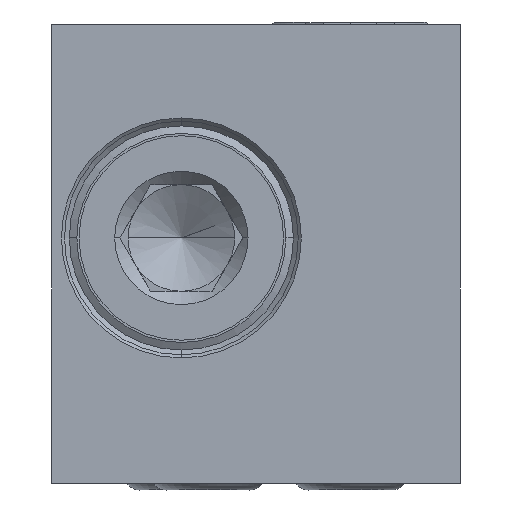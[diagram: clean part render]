
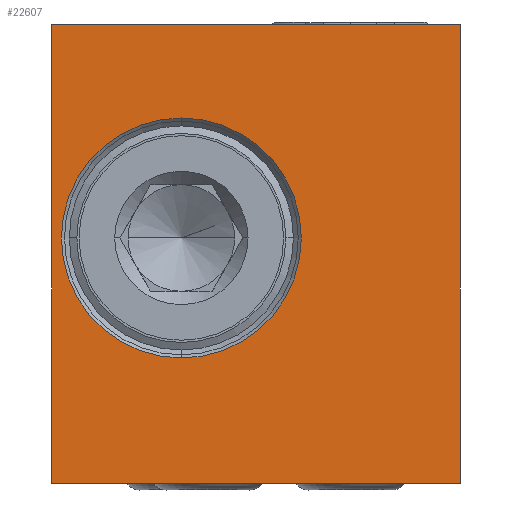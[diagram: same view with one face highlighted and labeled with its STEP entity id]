
A CAD part, left-side view. The second image highlights one B-rep face of the part: STEP entity #22607.
In plain terms, the highlighted planar face has unit normal (-1, 0, 0).
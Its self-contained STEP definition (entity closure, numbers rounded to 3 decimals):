
#4189=DIRECTION('',(0.,0.,1.));
#4190=VECTOR('',#4189,25.8);
#4191=CARTESIAN_POINT('',(-38.,11.5,-12.9));
#4192=LINE('',#4191,#4190);
#4193=DIRECTION('',(0.,-1.,0.));
#4194=VECTOR('',#4193,23.);
#4195=CARTESIAN_POINT('',(-38.,11.5,12.9));
#4196=LINE('',#4195,#4194);
#4197=DIRECTION('',(0.,0.,-1.));
#4198=VECTOR('',#4197,25.8);
#4199=CARTESIAN_POINT('',(-38.,-11.5,12.9));
#4200=LINE('',#4199,#4198);
#4201=DIRECTION('',(0.,1.,0.));
#4202=VECTOR('',#4201,23.);
#4203=CARTESIAN_POINT('',(-38.,-11.5,-12.9));
#4204=LINE('',#4203,#4202);
#4205=CARTESIAN_POINT('',(-38.,4.2,0.9));
#4206=DIRECTION('',(-1.,0.,0.));
#4207=DIRECTION('',(0.,0.,-1.));
#4208=AXIS2_PLACEMENT_3D('',#4205,#4206,#4207);
#4210=CARTESIAN_POINT('',(-38.,4.2,0.9));
#4211=DIRECTION('',(-1.,0.,0.));
#4212=DIRECTION('',(0.,0.,1.));
#4213=AXIS2_PLACEMENT_3D('',#4210,#4211,#4212);
#15475=CARTESIAN_POINT('',(-38.,11.5,12.9));
#15476=VERTEX_POINT('',#15475);
#15477=CARTESIAN_POINT('',(-38.,11.5,-12.9));
#15478=VERTEX_POINT('',#15477);
#15479=CARTESIAN_POINT('',(-38.,-11.5,12.9));
#15480=VERTEX_POINT('',#15479);
#15501=CARTESIAN_POINT('',(-38.,-11.5,-12.9));
#15502=VERTEX_POINT('',#15501);
#15547=CARTESIAN_POINT('',(-38.,4.2,-5.85));
#15548=CARTESIAN_POINT('',(-38.,4.2,7.65));
#15549=VERTEX_POINT('',#15547);
#15550=VERTEX_POINT('',#15548);
#22588=CARTESIAN_POINT('',(-38.,0.,0.));
#22589=DIRECTION('',(-1.,0.,0.));
#22590=DIRECTION('',(0.,-1.,0.));
#22591=AXIS2_PLACEMENT_3D('',#22588,#22589,#22590);
#22592=PLANE('',#22591);
#22593=ORIENTED_EDGE('',*,*,#22581,.T.);
#22594=ORIENTED_EDGE('',*,*,#20289,.T.);
#22596=ORIENTED_EDGE('',*,*,#22595,.T.);
#22598=ORIENTED_EDGE('',*,*,#22597,.T.);
#22599=EDGE_LOOP('',(#22593,#22594,#22596,#22598));
#22600=FACE_OUTER_BOUND('',#22599,.F.);
#22602=ORIENTED_EDGE('',*,*,#22601,.T.);
#22604=ORIENTED_EDGE('',*,*,#22603,.T.);
#22605=EDGE_LOOP('',(#22602,#22604));
#22606=FACE_BOUND('',#22605,.F.);
#22607=ADVANCED_FACE('',(#22600,#22606),#22592,.T.);
#4209=CIRCLE('',#4208,6.75);
#4214=CIRCLE('',#4213,6.75);
#20289=EDGE_CURVE('',#15476,#15480,#4196,.T.);
#22581=EDGE_CURVE('',#15478,#15476,#4192,.T.);
#22595=EDGE_CURVE('',#15480,#15502,#4200,.T.);
#22597=EDGE_CURVE('',#15502,#15478,#4204,.T.);
#22601=EDGE_CURVE('',#15549,#15550,#4209,.T.);
#22603=EDGE_CURVE('',#15550,#15549,#4214,.T.);
